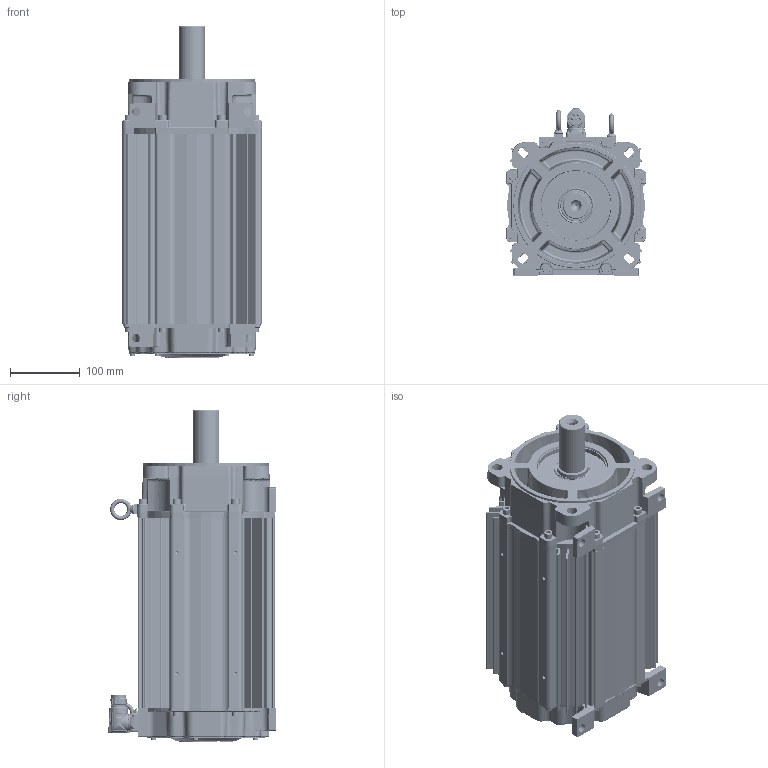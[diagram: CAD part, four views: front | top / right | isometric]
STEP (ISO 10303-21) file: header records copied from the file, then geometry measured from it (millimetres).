
FILE_DESCRIPTION((''),'2;1');
FILE_NAME('10001873164_ASM','2020-01-16T09:28:42',('VThimma'),('Rockwell Automation'),'CREO PARAMETRIC BY PTC INC, 2017380','CREO PARAMETRIC BY PTC INC, 2017380','');
FILE_SCHEMA(('CONFIG_CONTROL_DESIGN','SHAPE_APPEARANCE_LAYERS_GROUPS'));
Products named in the file (25): 10001365220; 10001238886_AF0; 10001298482_AF22; 10001284445_ASM; CH31X150; 10001406656_ASM; 10001334964_KEYLESS; 10001398525_ASM; 10001257630_AF300; 10001300098_AF272; 10001314840_ASM; 10001586886; 0002-5005; 10000014325-2; 10000014325-1; 10000014326-1; 10000014326-M23_ASM; 10000014328-M23; 10000014325-M23_ASM; 10000172464; 10000569218; 10001290343; 221404-Q12; 10001609981; 10001873164_ASM
Assembly tree (50 placements, depth 4):
  10001873164_ASM
    10001406656_ASM
      10001365220
      10001284445_ASM
        10001238886_AF0
        10001298482_AF22
      CH31X150  x8
    10001398525_ASM
      10001334964_KEYLESS
    10001314840_ASM
      10001257630_AF300
      10001300098_AF272
    10001586886  x8
    0002-5005  x2
    10000014325-M23_ASM
      10000014325-2
      10000014325-1
      10000014326-M23_ASM
        10000014326-1
      10000014328-M23  x4
    10000172464  x4
    10000569218
    10001290343
    221404-Q12  x6
    10001609981
Bounding box: 200.45 x 240.54 x 476.79 mm (x, y, z)
Surface area: 1148095.8 mm2 (no closed solid volume)
Topology: 0 solids, 59 shells, 5620 faces, 14388 edges, 8891 vertices
Faces by surface type: cylinder 1807, plane 1409, bspline 1152, cone 583, torus 570, sphere 95, extrusion 3, revolution 1
Entity records: 289401 total; most frequent: CARTESIAN_POINT 112425, ORIENTED_EDGE 23570, DIRECTION 19616, PRESENTATION_STYLE_ASSIGNMENT 16342, STYLED_ITEM 16342, CURVE_STYLE 11795, EDGE_CURVE 11791, AXIS2_PLACEMENT_3D 7832
